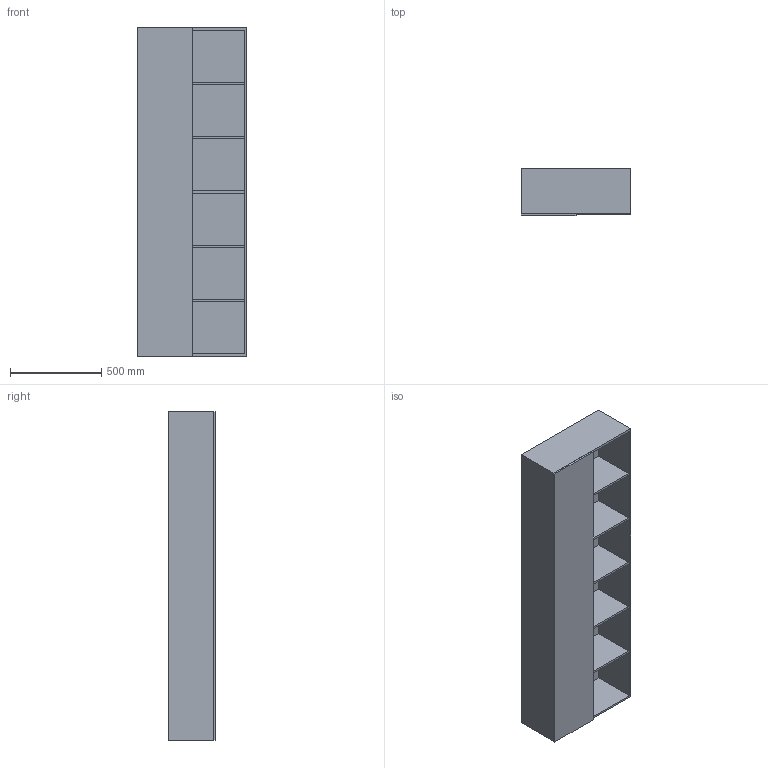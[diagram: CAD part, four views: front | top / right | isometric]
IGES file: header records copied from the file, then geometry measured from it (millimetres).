
Global section: file name: \\Archi-NAS\Comune\X GIOVANNI\SPECCHI\MIRR REVERSE CABINET.igs; native system: Rhinoceros ( Feb 23 2021 ); preprocessor: Trout Lake IGES 012 Feb 23 2021; date: 230608.085521; units: millimetre
Bounding box: 600 x 260 x 1800 mm (x, y, z)
Surface area: 7153608 mm2 (no closed solid volume)
Topology: 0 solids, 0 shells, 52 faces, 216 edges, 216 vertices
Faces by surface type: bspline 52
